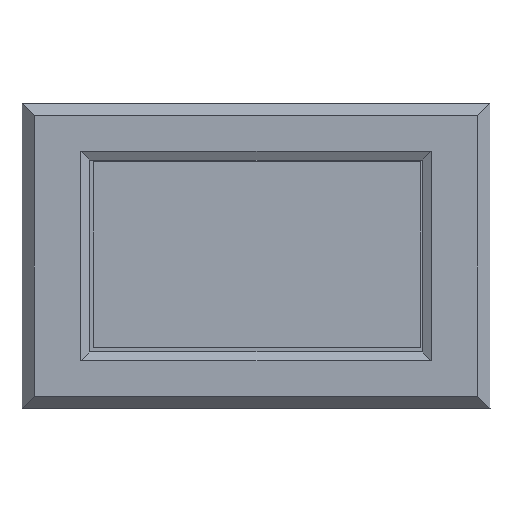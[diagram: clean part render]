
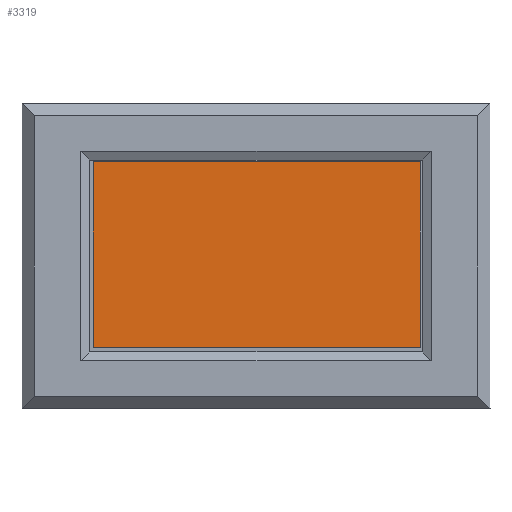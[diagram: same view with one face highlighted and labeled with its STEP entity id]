
A CAD part, top view. The second image highlights one B-rep face of the part: STEP entity #3319.
In plain terms, the highlighted planar face has unit normal (0, 0, 1).
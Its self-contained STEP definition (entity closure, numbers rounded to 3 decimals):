
#3319=ADVANCED_FACE('',(#4883),#4118,.T.);
#4118=PLANE('',#19129);
#4883=FACE_OUTER_BOUND('',#5989,.T.);
#5989=EDGE_LOOP('',(#8923,#8924,#8925,#8926));
#8923=ORIENTED_EDGE('',*,*,#13793,.T.);
#8924=ORIENTED_EDGE('',*,*,#13797,.T.);
#8925=ORIENTED_EDGE('',*,*,#13800,.T.);
#8926=ORIENTED_EDGE('',*,*,#13802,.T.);
#11906=VERTEX_POINT('',#26635);
#11907=VERTEX_POINT('',#26637);
#11909=VERTEX_POINT('',#26643);
#11911=VERTEX_POINT('',#26649);
#13793=EDGE_CURVE('',#11907,#11906,#15702,.T.);
#13797=EDGE_CURVE('',#11906,#11909,#15706,.T.);
#13800=EDGE_CURVE('',#11909,#11911,#15709,.T.);
#13802=EDGE_CURVE('',#11911,#11907,#15711,.T.);
#15702=LINE('',#26636,#17441);
#15706=LINE('',#26644,#17445);
#15709=LINE('',#26650,#17448);
#15711=LINE('',#26653,#17450);
#17441=VECTOR('',#21967,1.);
#17445=VECTOR('',#21973,1.);
#17448=VECTOR('',#21978,1.);
#17450=VECTOR('',#21982,1.);
#19129=AXIS2_PLACEMENT_3D('',#26655,#21985,#21986);
#21967=DIRECTION('',(0.,1.,0.));
#21973=DIRECTION('',(-1.,0.,0.));
#21978=DIRECTION('',(0.,-1.,0.));
#21982=DIRECTION('',(1.,0.,0.));
#21985=DIRECTION('',(0.,0.,1.));
#21986=DIRECTION('',(1.,0.,0.));
#26635=CARTESIAN_POINT('',(1119.418,287.172,2.533));
#26636=CARTESIAN_POINT('',(1119.418,233.312,2.533));
#26637=CARTESIAN_POINT('',(1119.418,233.312,2.533));
#26643=CARTESIAN_POINT('',(1024.378,287.172,2.533));
#26644=CARTESIAN_POINT('',(1119.418,287.172,2.533));
#26649=CARTESIAN_POINT('',(1024.378,233.312,2.533));
#26650=CARTESIAN_POINT('',(1024.378,287.172,2.533));
#26653=CARTESIAN_POINT('',(1024.378,233.312,2.533));
#26655=CARTESIAN_POINT('',(1192.548,238.027,2.533));
